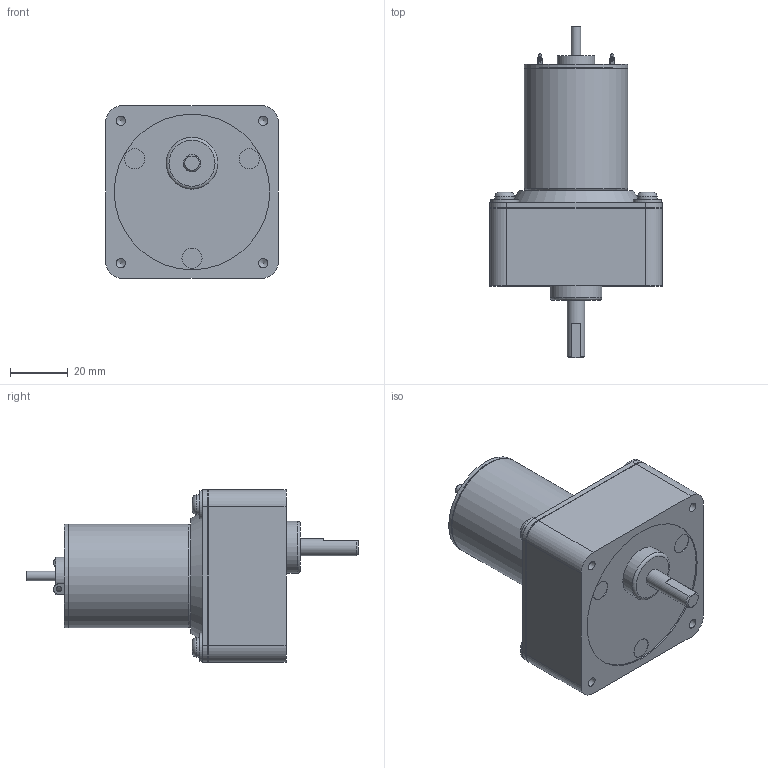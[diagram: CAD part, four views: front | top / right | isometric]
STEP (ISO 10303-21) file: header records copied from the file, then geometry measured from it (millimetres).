
FILE_DESCRIPTION((''),'2;1');
FILE_NAME('C:\Documents and Settings\SSEGAWA\デスクトップ\TP-3644L-CE.stp','2013-07-22T16:56:21',('SSEGAWA'),(''),'Autodesk Inventor 2010','Autodesk Inventor 2010','');
FILE_SCHEMA(('CONFIG_CONTROL_DESIGN'));
Length unit declared in the file: millimetre
Products named in the file (1): tp_3644l_ce_Shrinkwrap_1
Bounding box: 60 x 115.3 x 60 mm (x, y, z)
Volume: 155471.4 mm3; surface area: 21094.7 mm2
Topology: 1 solids, 4 shells, 111 faces, 236 edges, 156 vertices
Faces by surface type: plane 51, cylinder 35, bspline 16, torus 7, cone 2
Full cylindrical faces by diameter (mm): 3 x1, 3.175 x1, 3.5 x1, 6 x1, 6.8 x4, 7 x3, 9.8 x4, 13 x1, 18 x1, 35.6 x1, 36 x2, 54 x1
Entity records: 2973 total; most frequent: CARTESIAN_POINT 697, DIRECTION 461, ORIENTED_EDGE 344, AXIS2_PLACEMENT_3D 195, EDGE_LOOP 183, EDGE_CURVE 172, VERTEX_POINT 137, STYLED_ITEM 112
